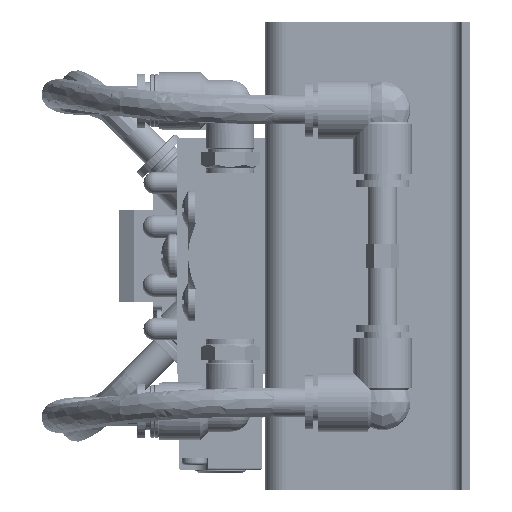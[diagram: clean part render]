
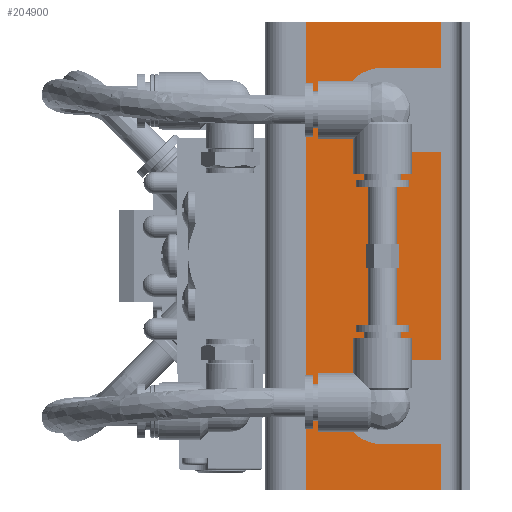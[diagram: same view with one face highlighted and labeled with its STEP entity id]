
A CAD part, left-side view. The second image highlights one B-rep face of the part: STEP entity #204900.
In plain terms, the highlighted planar face has unit normal (-1, 0, 0).
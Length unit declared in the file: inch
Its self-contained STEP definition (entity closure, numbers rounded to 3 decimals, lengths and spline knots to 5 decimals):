
#3754 = EDGE_CURVE ( 'NONE', #186662, #107004, #195253, .T. ) ;
#7244 = VERTEX_POINT ( 'NONE', #92455 ) ;
#13583 = ORIENTED_EDGE ( 'NONE', *, *, #19047, .T. ) ;
#14380 = CARTESIAN_POINT ( 'NONE',  ( -4.2741, 0.75, -1.609 ) ) ;
#14443 = ORIENTED_EDGE ( 'NONE', *, *, #38678, .T. ) ;
#14959 = CARTESIAN_POINT ( 'NONE',  ( -4.2741, 0.25, 1.609 ) ) ;
#19047 = EDGE_CURVE ( 'NONE', #170495, #291243, #287143, .T. ) ;
#24548 = VERTEX_POINT ( 'NONE', #14959 ) ;
#26197 = EDGE_CURVE ( 'NONE', #48915, #245979, #297886, .T. ) ;
#34066 = DIRECTION ( 'NONE',  ( 1., 0., 0. ) ) ;
#36428 = LINE ( 'NONE', #71065, #108644 ) ;
#36894 = VECTOR ( 'NONE', #88764, 39.37008 ) ;
#37539 = LINE ( 'NONE', #237121, #250647 ) ;
#38678 = EDGE_CURVE ( 'NONE', #186662, #170495, #72829, .T. ) ;
#39395 = AXIS2_PLACEMENT_3D ( 'NONE', #314171, #120411, #73637 ) ;
#39705 = EDGE_CURVE ( 'NONE', #160711, #73859, #197105, .T. ) ;
#45328 = DIRECTION ( 'NONE',  ( 0., -1., 0. ) ) ;
#48915 = VERTEX_POINT ( 'NONE', #142908 ) ;
#51720 = ORIENTED_EDGE ( 'NONE', *, *, #149670, .F. ) ;
#54779 = CARTESIAN_POINT ( 'NONE',  ( -4.2741, 0.75, -0.891 ) ) ;
#55396 = DIRECTION ( 'NONE',  ( 0., 0., -1. ) ) ;
#57299 = DIRECTION ( 'NONE',  ( 1., 0., 0. ) ) ;
#58860 = CARTESIAN_POINT ( 'NONE',  ( -4.2741, 1.4, 2. ) ) ;
#65150 = VECTOR ( 'NONE', #161170, 39.37008 ) ;
#67461 = CIRCLE ( 'NONE', #120660, 0.359 ) ;
#68749 = CARTESIAN_POINT ( 'NONE',  ( -4.2741, 0.25, -0.891 ) ) ;
#69115 = ORIENTED_EDGE ( 'NONE', *, *, #295709, .T. ) ;
#69604 = VERTEX_POINT ( 'NONE', #187871 ) ;
#69615 = LINE ( 'NONE', #68749, #282707 ) ;
#71065 = CARTESIAN_POINT ( 'NONE',  ( -4.2741, 0.75, 1.609 ) ) ;
#72829 = LINE ( 'NONE', #127615, #278558 ) ;
#73637 = DIRECTION ( 'NONE',  ( 0., 0., -1. ) ) ;
#73859 = VERTEX_POINT ( 'NONE', #154481 ) ;
#75537 = EDGE_CURVE ( 'NONE', #154004, #160711, #130968, .T. ) ;
#88659 = VECTOR ( 'NONE', #288435, 39.37008 ) ;
#88764 = DIRECTION ( 'NONE',  ( 0., 1., 0. ) ) ;
#92455 = CARTESIAN_POINT ( 'NONE',  ( -4.2741, 0.25, -2. ) ) ;
#100387 = VECTOR ( 'NONE', #280021, 39.37008 ) ;
#105047 = CARTESIAN_POINT ( 'NONE',  ( -4.2741, 0.75, 0. ) ) ;
#107004 = VERTEX_POINT ( 'NONE', #188463 ) ;
#108644 = VECTOR ( 'NONE', #122034, 39.37008 ) ;
#109383 = DIRECTION ( 'NONE',  ( 0., 1., 0. ) ) ;
#115142 = ORIENTED_EDGE ( 'NONE', *, *, #75537, .F. ) ;
#119787 = CARTESIAN_POINT ( 'NONE',  ( -4.2741, 1.4, 2. ) ) ;
#120411 = DIRECTION ( 'NONE',  ( 1., 0., 0. ) ) ;
#120660 = AXIS2_PLACEMENT_3D ( 'NONE', #270476, #176900, #246146 ) ;
#122034 = DIRECTION ( 'NONE',  ( 0., -1., 0. ) ) ;
#124158 = CIRCLE ( 'NONE', #282529, 0.09375 ) ;
#124947 = AXIS2_PLACEMENT_3D ( 'NONE', #275470, #34066, #55396 ) ;
#127449 = DIRECTION ( 'NONE',  ( 0., 0., -1. ) ) ;
#127615 = CARTESIAN_POINT ( 'NONE',  ( -4.2741, 0.25, 0.891 ) ) ;
#128323 = CARTESIAN_POINT ( 'NONE',  ( -4.2741, 1.4, -2. ) ) ;
#130968 = LINE ( 'NONE', #58860, #100387 ) ;
#135505 = ORIENTED_EDGE ( 'NONE', *, *, #39705, .F. ) ;
#139010 = CARTESIAN_POINT ( 'NONE',  ( -4.2741, 0.75, 0.891 ) ) ;
#139250 = EDGE_LOOP ( 'NONE', ( #264057, #312371 ) ) ;
#141999 = CARTESIAN_POINT ( 'NONE',  ( -4.2741, 0.25, 0.891 ) ) ;
#142908 = CARTESIAN_POINT ( 'NONE',  ( -4.2741, 0.75, 0.09375 ) ) ;
#143301 = LINE ( 'NONE', #175037, #269048 ) ;
#145832 = DIRECTION ( 'NONE',  ( 0., -1., 0. ) ) ;
#146473 = EDGE_CURVE ( 'NONE', #245979, #48915, #124158, .T. ) ;
#146883 = CARTESIAN_POINT ( 'NONE',  ( -4.2741, 1.4, 2. ) ) ;
#146982 = ORIENTED_EDGE ( 'NONE', *, *, #3754, .F. ) ;
#147918 = ORIENTED_EDGE ( 'NONE', *, *, #192691, .F. ) ;
#149670 = EDGE_CURVE ( 'NONE', #7244, #154004, #143301, .T. ) ;
#152025 = EDGE_CURVE ( 'NONE', #69604, #7244, #37539, .T. ) ;
#152516 = EDGE_CURVE ( 'NONE', #69604, #230227, #272795, .T. ) ;
#154004 = VERTEX_POINT ( 'NONE', #128323 ) ;
#154228 = FACE_OUTER_BOUND ( 'NONE', #268135, .T. ) ;
#154481 = CARTESIAN_POINT ( 'NONE',  ( -4.2741, 0.25, 2. ) ) ;
#156997 = CARTESIAN_POINT ( 'NONE',  ( -4.2741, 0.25, 2. ) ) ;
#158636 = DIRECTION ( 'NONE',  ( 1., 0., 0. ) ) ;
#159678 = PLANE ( 'NONE',  #253733 ) ;
#160711 = VERTEX_POINT ( 'NONE', #119787 ) ;
#161170 = DIRECTION ( 'NONE',  ( 0., 0., -1. ) ) ;
#165324 = CARTESIAN_POINT ( 'NONE',  ( -4.2741, 0.75, 1.609 ) ) ;
#169175 = ORIENTED_EDGE ( 'NONE', *, *, #246379, .T. ) ;
#169458 = FACE_BOUND ( 'NONE', #139250, .T. ) ;
#170495 = VERTEX_POINT ( 'NONE', #139010 ) ;
#172170 = ORIENTED_EDGE ( 'NONE', *, *, #152516, .T. ) ;
#175037 = CARTESIAN_POINT ( 'NONE',  ( -4.2741, 1.4, -2. ) ) ;
#176900 = DIRECTION ( 'NONE',  ( 1., 0., 0. ) ) ;
#180676 = ORIENTED_EDGE ( 'NONE', *, *, #152025, .F. ) ;
#186088 = CARTESIAN_POINT ( 'NONE',  ( -4.2741, 0.75, -1.609 ) ) ;
#186662 = VERTEX_POINT ( 'NONE', #141999 ) ;
#187871 = CARTESIAN_POINT ( 'NONE',  ( -4.2741, 0.25, -1.609 ) ) ;
#188463 = CARTESIAN_POINT ( 'NONE',  ( -4.2741, 0.25, -0.891 ) ) ;
#192691 = EDGE_CURVE ( 'NONE', #73859, #24548, #312741, .T. ) ;
#193347 = DIRECTION ( 'NONE',  ( 0., 0., -1. ) ) ;
#194739 = CARTESIAN_POINT ( 'NONE',  ( -4.2741, 0.75, -0.09375 ) ) ;
#195253 = LINE ( 'NONE', #291562, #88659 ) ;
#197105 = LINE ( 'NONE', #146883, #246611 ) ;
#204900 = ADVANCED_FACE ( 'NONE', ( #169458, #154228 ), #159678, .F. ) ;
#225667 = EDGE_CURVE ( 'NONE', #230227, #288943, #67461, .T. ) ;
#230227 = VERTEX_POINT ( 'NONE', #186088 ) ;
#237121 = CARTESIAN_POINT ( 'NONE',  ( -4.2741, 0.25, 2. ) ) ;
#245979 = VERTEX_POINT ( 'NONE', #194739 ) ;
#246146 = DIRECTION ( 'NONE',  ( 0., 0., 1. ) ) ;
#246379 = EDGE_CURVE ( 'NONE', #291243, #24548, #36428, .T. ) ;
#246611 = VECTOR ( 'NONE', #145832, 39.37008 ) ;
#250647 = VECTOR ( 'NONE', #193347, 39.37008 ) ;
#252907 = ORIENTED_EDGE ( 'NONE', *, *, #225667, .T. ) ;
#253733 = AXIS2_PLACEMENT_3D ( 'NONE', #278863, #158636, #282016 ) ;
#264057 = ORIENTED_EDGE ( 'NONE', *, *, #146473, .T. ) ;
#268135 = EDGE_LOOP ( 'NONE', ( #180676, #172170, #252907, #69115, #146982, #14443, #13583, #169175, #147918, #135505, #115142, #51720 ) ) ;
#269048 = VECTOR ( 'NONE', #314454, 39.37008 ) ;
#270476 = CARTESIAN_POINT ( 'NONE',  ( -4.2741, 0.75, -1.25 ) ) ;
#272795 = LINE ( 'NONE', #14380, #36894 ) ;
#275470 = CARTESIAN_POINT ( 'NONE',  ( -4.2741, 0.75, 0. ) ) ;
#278558 = VECTOR ( 'NONE', #109383, 39.37008 ) ;
#278863 = CARTESIAN_POINT ( 'NONE',  ( -4.2741, 0.25, -2. ) ) ;
#280021 = DIRECTION ( 'NONE',  ( 0., 0., 1. ) ) ;
#282016 = DIRECTION ( 'NONE',  ( 0., 0., -1. ) ) ;
#282529 = AXIS2_PLACEMENT_3D ( 'NONE', #105047, #57299, #127449 ) ;
#282707 = VECTOR ( 'NONE', #45328, 39.37008 ) ;
#287143 = CIRCLE ( 'NONE', #39395, 0.359 ) ;
#288435 = DIRECTION ( 'NONE',  ( 0., 0., -1. ) ) ;
#288943 = VERTEX_POINT ( 'NONE', #54779 ) ;
#291243 = VERTEX_POINT ( 'NONE', #165324 ) ;
#291562 = CARTESIAN_POINT ( 'NONE',  ( -4.2741, 0.25, 2. ) ) ;
#295709 = EDGE_CURVE ( 'NONE', #288943, #107004, #69615, .T. ) ;
#297886 = CIRCLE ( 'NONE', #124947, 0.09375 ) ;
#312371 = ORIENTED_EDGE ( 'NONE', *, *, #26197, .T. ) ;
#312741 = LINE ( 'NONE', #156997, #65150 ) ;
#314171 = CARTESIAN_POINT ( 'NONE',  ( -4.2741, 0.75, 1.25 ) ) ;
#314454 = DIRECTION ( 'NONE',  ( 0., 1., 0. ) ) ;
